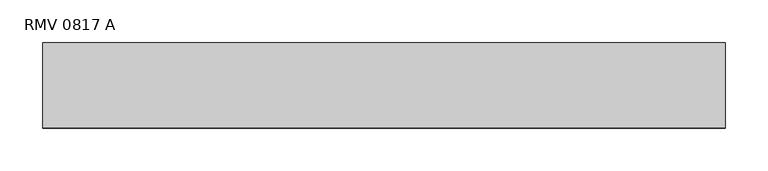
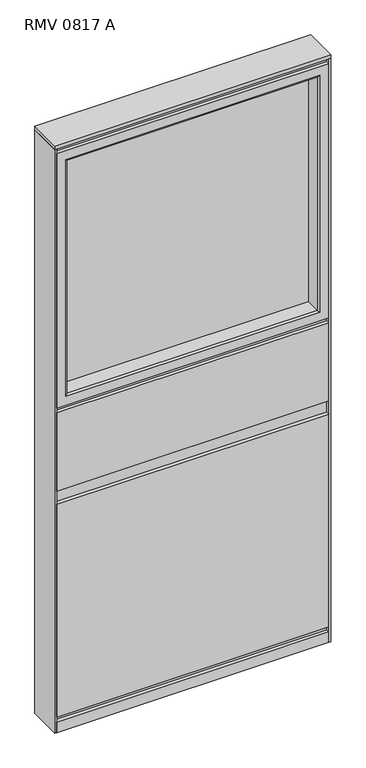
"""IFC4 building model written with IfcOpenShell, lengths in millimetres: furniture geometry, Mobiliário_MobiliáriodeEscritório_LinhaReasons_PainelMisto1800mm-Melamina_Marelli : RMV 0817 A."""

import ifcopenshell
import ifcopenshell.guid

model = None  # the IFC model being written
_history = None  # IfcOwnerHistory: only IFC2X3 demands one
_inside = {}  # id of a spatial element -> (the spatial element, [elements in it])
_under = {}  # id of a project, library or spatial element -> (it, [spatial elements below it])
_declared = {}  # id of a project -> (the project, [libraries it declares])
_typed = {}  # id of a type object -> (the type object, [elements of that type])
_made_of = {}  # id of a material, layer set ... -> (it, [elements and type objects made of it])


def new_model(schema):
    """Start an empty IFC model of exactly this schema.

    Asked for "IFC4X3", IfcOpenShell would pick the latest addendum, in which some entities
    have other attributes; the version numbers below select the first issue.
    IFC2X3 requires an IfcOwnerHistory on every rooted entity: one is made here for all.
    """
    global model, _history
    if schema == "IFC4X3":
        model = ifcopenshell.file(schema_version=(4, 3, 0, 0))
    else:
        model = ifcopenshell.file(schema=schema)
    _inside.clear()
    _under.clear()
    _declared.clear()
    _typed.clear()
    _made_of.clear()
    _history = None
    if model.schema == "IFC2X3":
        org = make("IfcOrganization", Name="unknown")
        user = make(
            "IfcPersonAndOrganization",
            ThePerson=make("IfcPerson", FamilyName="unknown"),
            TheOrganization=org,
        )
        app = make(
            "IfcApplication",
            ApplicationDeveloper=org,
            Version="unknown",
            ApplicationFullName="unknown",
            ApplicationIdentifier="unknown",
        )
        _history = make(
            "IfcOwnerHistory",
            OwningUser=user,
            OwningApplication=app,
            ChangeAction="ADDED",
            CreationDate=0,
        )
    return model


def make(cls, **values):
    """One entity of the class cls with the attributes given. An attribute that is None is left unset."""
    return model.create_entity(
        cls, **{name: value for name, value in values.items() if value is not None}
    )


def rooted(cls, **values):
    """An entity with a GlobalId (a new one), such as an element, a storey or a relation."""
    return make(cls, GlobalId=ifcopenshell.guid.new(), OwnerHistory=_history, **values)


def si_unit(unit_type, name, prefix=None):
    """IfcSIUnit, for example si_unit("LENGTHUNIT", "METRE", prefix="MILLI")."""
    return make("IfcSIUnit", UnitType=unit_type, Prefix=prefix, Name=name)


def assignment(units):
    """IfcUnitAssignment: the units of a project."""
    return None if units is None else make("IfcUnitAssignment", Units=units)


def point(xyz):
    """IfcCartesianPoint."""
    return None if xyz is None else make("IfcCartesianPoint", Coordinates=xyz)


def direction(xyz):
    """IfcDirection."""
    return None if xyz is None else make("IfcDirection", DirectionRatios=xyz)


def frame(location, z_axis=None, x_axis=None):
    """IfcAxis2Placement3D, a coordinate frame: its origin and axes. An axis left out is left unset."""
    return make(
        "IfcAxis2Placement3D",
        Location=point(location),
        Axis=direction(z_axis),
        RefDirection=direction(x_axis),
    )


def origin():
    """The frame at (0, 0, 0) with its axes left unset."""
    return frame((0.0, 0.0, 0.0))


def origin_with_axes():
    """The frame at (0, 0, 0) with the z axis (0, 0, 1) and the x axis (1, 0, 0) written out."""
    return frame((0.0, 0.0, 0.0), z_axis=(0.0, 0.0, 1.0), x_axis=(1.0, 0.0, 0.0))


def place(relative_to, where):
    """IfcLocalPlacement: puts the frame where relative to a parent placement (None: the world)."""
    return make(
        "IfcLocalPlacement", PlacementRelTo=relative_to, RelativePlacement=where
    )


def context(
    kind, dimensions, precision=None, world=None, true_north=None, identifier=None
):
    """IfcGeometricRepresentationContext, for example the 3D "Model" context."""
    return make(
        "IfcGeometricRepresentationContext",
        ContextIdentifier=identifier,
        ContextType=kind,
        CoordinateSpaceDimension=dimensions,
        Precision=precision,
        WorldCoordinateSystem=world,
        TrueNorth=true_north,
    )


def project(units=None, contexts=None):
    """IfcProject with its units and contexts."""
    return rooted(
        "IfcProject",
        Name="project",
        RepresentationContexts=contexts,
        UnitsInContext=assignment(units),
    )


def spatial(cls, under=None, at=None, **own):
    """A site, building, storey or space (cls), placed at a placement, below another one or the project."""
    s = rooted(cls, ObjectPlacement=at, **own)
    if under is not None:
        _under.setdefault(under.id(), (under, []))[1].append(s)
    return s


def polyline(points):
    """IfcPolyline through the points."""
    return make("IfcPolyline", Points=[point(p) for p in points])


def ellipse_curve(where, semi_axis1, semi_axis2):
    """IfcEllipse in the frame where."""
    return make(
        "IfcEllipse", Position=where, SemiAxis1=semi_axis1, SemiAxis2=semi_axis2
    )


def outline(outer, holes=None, kind="AREA"):
    """IfcArbitraryClosedProfileDef: a profile drawn as a closed curve; with holes, ...WithVoids."""
    if holes is None:
        return make("IfcArbitraryClosedProfileDef", ProfileType=kind, OuterCurve=outer)
    return make(
        "IfcArbitraryProfileDefWithVoids",
        ProfileType=kind,
        OuterCurve=outer,
        InnerCurves=holes,
    )


def extrude(swept, where, along, depth):
    """IfcExtrudedAreaSolid: the profile swept, set in the frame where, extruded along a direction by depth."""
    return make(
        "IfcExtrudedAreaSolid",
        SweptArea=swept,
        Position=where,
        ExtrudedDirection=direction(along),
        Depth=depth,
    )


def shape(context_of_items, identifier, shape_type, items):
    """IfcShapeRepresentation: the items that make up one representation, for example the "Body"."""
    return make(
        "IfcShapeRepresentation",
        ContextOfItems=context_of_items,
        RepresentationIdentifier=identifier,
        RepresentationType=shape_type,
        Items=items,
    )


def source(mapping_origin, context_of_items, identifier, shape_type, items):
    """IfcRepresentationMap: a shape defined once, which mapped items show again and again."""
    return make(
        "IfcRepresentationMap",
        MappingOrigin=mapping_origin,
        MappedRepresentation=shape(context_of_items, identifier, shape_type, items),
    )


def transform(
    local_origin,
    x_axis=None,
    y_axis=None,
    z_axis=None,
    scale=None,
    scale2=None,
    scale3=None,
    uniform=True,
):
    """IfcCartesianTransformationOperator3D, or its non-uniform kind. x_axis, y_axis, z_axis: its Axis1, 2, 3."""
    if uniform:
        return make(
            "IfcCartesianTransformationOperator3D",
            Axis1=direction(x_axis),
            Axis2=direction(y_axis),
            LocalOrigin=point(local_origin),
            Scale=scale,
            Axis3=direction(z_axis),
        )
    return make(
        "IfcCartesianTransformationOperator3DnonUniform",
        Axis1=direction(x_axis),
        Axis2=direction(y_axis),
        LocalOrigin=point(local_origin),
        Scale=scale,
        Axis3=direction(z_axis),
        Scale2=scale2,
        Scale3=scale3,
    )


def mapped(mapping_source, mapping_target):
    """IfcMappedItem: shows the shape of a source again, moved by a transform."""
    return make(
        "IfcMappedItem", MappingSource=mapping_source, MappingTarget=mapping_target
    )


def made_of(thing, what):
    """Note that an element or type object is made of a material, layer set ...; save() writes the relation."""
    if what is not None:
        _made_of.setdefault(what.id(), (what, []))[1].append(thing)
    return thing


def element(
    cls,
    number,
    at=None,
    inside=None,
    cuts=None,
    type_object=None,
    material=None,
    context=None,
    identifier="Body",
    shape_type=None,
    held_by="IfcProductDefinitionShape",
    body=None,
    shapes=None,
    **own,
):
    """One element of the class cls, such as IfcWall. Its Tag is "e" and its number.

    at: its placement. inside: the storey or other place that contains it. cuts: it is an
    opening in that element (IfcRelVoidsElement). A single representation is given by context,
    identifier, shape_type and body (its items); several are given by shapes. held_by: the class
    of the entity that holds the representations. save() writes the other relations.
    """
    e = rooted(cls, Tag="e%d" % number, ObjectPlacement=at, **own)
    if body is not None:
        shapes = [shape(context, identifier, shape_type, body)]
    if shapes is not None:
        e.Representation = make(held_by, Representations=shapes)
    if inside is not None:
        _inside.setdefault(inside.id(), (inside, []))[1].append(e)
    if cuts is not None:
        rooted(
            "IfcRelVoidsElement", RelatingBuildingElement=cuts, RelatedOpeningElement=e
        )
    if type_object is not None:
        _typed.setdefault(type_object.id(), (type_object, []))[1].append(e)
    return made_of(e, material)


def aggregate(whole, parts):
    """IfcRelAggregates: a whole, such as a stair, and the parts it consists of."""
    return rooted("IfcRelAggregates", RelatingObject=whole, RelatedObjects=parts)


def save(model, path):
    """Write the relations noted so far, then the file.

    IfcRelAggregates (storeys below a building ...), IfcRelContainedInSpatialStructure (elements
    in a storey), IfcRelDefinesByType, IfcRelAssociatesMaterial and IfcRelDeclares: one each for
    every whole, place, type object, material and project.
    """
    for whole, parts in _under.values():
        aggregate(whole, parts)
    for where, things in _inside.values():
        rooted(
            "IfcRelContainedInSpatialStructure",
            RelatedElements=things,
            RelatingStructure=where,
        )
    for kind, things in _typed.values():
        rooted("IfcRelDefinesByType", RelatedObjects=things, RelatingType=kind)
    for what, things in _made_of.values():
        rooted("IfcRelAssociatesMaterial", RelatedObjects=things, RelatingMaterial=what)
    for by, libraries in _declared.values():
        rooted("IfcRelDeclares", RelatingContext=by, RelatedDefinitions=libraries)
    model.write(path)


def plane_surface(at):
    """IfcPlane: the flat surface through the origin of the frame at, square to its z axis."""
    return make("IfcPlane", Position=at)


def cylinder_surface(at, radius):
    """IfcCylindricalSurface: all points at the distance radius from the z axis of the frame at."""
    return make("IfcCylindricalSurface", Position=at, Radius=radius)


def advanced_brep(points, edges, surfaces, faces):
    """IfcAdvancedBrep: a solid bounded by faces that lie on surfaces and meet in shared edges.

    An edge is (start, end): straight between two places in points (the first is 0);
    or (start, end, curve); or (start, end, curve, False) where it runs against its curve.
    A face is (place in surfaces, loops), or (place, loops, False) where it looks against
    its surface's normal. A loop lists edges by number (the first is 1), with a minus sign
    where the edge is run from its end to its start. The first loop is the outer one.
    """
    corners = [point(p) for p in points]
    vertices = [make("IfcVertexPoint", VertexGeometry=c) for c in corners]
    made = []
    for start, end, *more in edges:
        made.append(
            make(
                "IfcEdgeCurve",
                EdgeStart=vertices[start],
                EdgeEnd=vertices[end],
                EdgeGeometry=more[0] if more else make("IfcPolyline", Points=[corners[start], corners[end]]),
                SameSense=more[1] if len(more) > 1 else True,
            )
        )
    hull = []
    for where, loops, *sense in faces:
        bounds = []
        for j, loop in enumerate(loops):
            ring = [make("IfcOrientedEdge", EdgeElement=made[abs(k) - 1], Orientation=k > 0) for k in loop]
            bounds.append(
                make(
                    "IfcFaceOuterBound" if j == 0 else "IfcFaceBound",
                    Bound=make("IfcEdgeLoop", EdgeList=ring),
                    Orientation=True,
                )
            )
        hull.append(make("IfcAdvancedFace", Bounds=bounds, FaceSurface=surfaces[where], SameSense=sense[0] if sense else True))
    return make("IfcAdvancedBrep", Outer=make("IfcClosedShell", CfsFaces=hull))


def rmv_0817_a_99f153d6(model_context):
    return source(origin(), model_context, "Body", "SolidModel", [
        extrude(outline(polyline([(795.0, 100.0), (800.0, 100.0), (800.0, 0.0), (795.0, 0.0), (795.0, 100.0)])), origin_with_axes(), (0.0, 0.0, 1.0), 1789.0),
        extrude(outline(polyline([(800.0, 100.0), (800.0, 0.0), (0.0, 0.0), (0.0, 100.0), (800.0, 100.0)])), frame((0.0, 0.0, 1789.0), z_axis=(0.0, 0.0, 1.0), x_axis=(1.0, 0.0, 0.0)), (0.0, 0.0, 1.0), 11.0),
        extrude(outline(polyline([(5.0, 11.0), (5.0, 89.0), (795.0, 89.0), (795.0, 11.0), (5.0, 11.0)])), origin_with_axes(), (0.0, 0.0, 1.0), 995.0),
        extrude(outline(polyline([(795.0, 100.0), (795.0, 89.0), (5.0, 89.0), (5.0, 100.0), (795.0, 100.0)])), origin_with_axes(), (0.0, 0.0, 1.0), 32.0),
        extrude(outline(polyline([(795.0, 11.0), (795.0, 0.0), (5.0, 0.0), (5.0, 11.0), (795.0, 11.0)])), origin_with_axes(), (0.0, 0.0, 1.0), 32.0),
        extrude(outline(polyline([(795.0, 11.0), (795.0, 0.0), (5.0, 0.0), (5.0, 11.0), (795.0, 11.0)])), frame((0.0, 0.0, 47.0), z_axis=(0.0, 0.0, 1.0), x_axis=(1.0, 0.0, 0.0)), (0.0, 0.0, 1.0), 653.0),
        extrude(outline(polyline([(795.0, 11.0), (795.0, 0.0), (5.0, 0.0), (5.0, 11.0), (795.0, 11.0)])), frame((0.0, 0.0, 740.0), z_axis=(0.0, 0.0, 1.0), x_axis=(1.0, 0.0, 0.0)), (0.0, 0.0, 1.0), 240.0),
        extrude(outline(polyline([(795.0, 100.0), (795.0, 89.0), (5.0, 89.0), (5.0, 100.0), (795.0, 100.0)])), frame((0.0, 0.0, 47.0), z_axis=(0.0, 0.0, 1.0), x_axis=(1.0, 0.0, 0.0)), (0.0, 0.0, 1.0), 653.0),
        extrude(outline(polyline([(795.0, 100.0), (795.0, 89.0), (5.0, 89.0), (5.0, 100.0), (795.0, 100.0)])), frame((0.0, 0.0, 715.0), z_axis=(0.0, 0.0, 1.0), x_axis=(1.0, 0.0, 0.0)), (0.0, 0.0, 1.0), 265.0),
        extrude(outline(polyline([(0.0, 100.0), (5.0, 100.0), (5.0, 0.0), (0.0, 0.0), (0.0, 100.0)])), origin_with_axes(), (0.0, 0.0, 1.0), 1789.0),
        advanced_brep(
        [(763.5, 5.0, 1742.5), (763.5, 95.0, 1742.5), (763.5, 95.0, 1026.5), (763.5, 5.0, 1026.5), (795.0, 100.0, 1774.0), (795.0, 0.0, 1774.0), (795.0, 0.0, 995.0), (795.0, 100.0, 995.0), (36.5, 95.0, 1026.5), (36.5, 5.0, 1026.5), (5.0, 0.0, 995.0), (5.0, 100.0, 995.0), (36.5, 95.0, 1742.5), (36.5, 5.0, 1742.5), (5.0, 0.0, 1774.0), (5.0, 100.0, 1774.0), (768.5, 100.0, 1747.5), (31.5, 100.0, 1747.5), (31.5, 100.0, 1021.5), (768.5, 100.0, 1021.5), (768.5, 0.0, 1021.5), (31.5, 0.0, 1021.5), (31.5, 0.0, 1747.5), (768.5, 0.0, 1747.5)],
        [
            (0, 1),
            (1, 2),
            (2, 3),
            (3, 0),
            (4, 5),
            (5, 6),
            (6, 7),
            (7, 4),
            (2, 8),
            (8, 9),
            (9, 3),
            (6, 10),
            (10, 11),
            (11, 7),
            (8, 12),
            (12, 13),
            (13, 9),
            (10, 14),
            (14, 15),
            (15, 11),
            (15, 4),
            (16, 17),
            (17, 18),
            (18, 19),
            (19, 16),
            (12, 1),
            (0, 13),
            (5, 14),
            (20, 21),
            (21, 22),
            (22, 23),
            (23, 20),
            (1, 16, ellipse_curve(frame((768.5, 95.0, 1747.5), z_axis=(0.7071067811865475, 0.0, -0.7071067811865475), x_axis=(0.7071067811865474, 0.0, 0.7071067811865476)), 7.0710678, 5.0)),
            (19, 2, ellipse_curve(frame((768.5, 95.0, 1021.5), z_axis=(0.7071067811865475, 0.0, 0.7071067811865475), x_axis=(-0.7071067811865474, 0.0, 0.7071067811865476)), 7.0710678, 5.0)),
            (23, 0, ellipse_curve(frame((768.5, 5.0, 1747.5), z_axis=(0.7071067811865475, 0.0, -0.7071067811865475), x_axis=(0.7071067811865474, 0.0, 0.7071067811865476)), 7.0710678, 5.0)),
            (3, 20, ellipse_curve(frame((768.5, 5.0, 1021.5), z_axis=(0.7071067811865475, 0.0, 0.7071067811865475), x_axis=(-0.7071067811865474, 0.0, 0.7071067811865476)), 7.0710678, 5.0)),
            (18, 8, ellipse_curve(frame((31.5, 95.0, 1021.5), z_axis=(0.7071067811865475, 0.0, -0.7071067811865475), x_axis=(0.7071067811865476, 0.0, 0.7071067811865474)), 7.0710678, 5.0)),
            (9, 21, ellipse_curve(frame((31.5, 5.0, 1021.5), z_axis=(0.7071067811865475, 0.0, -0.7071067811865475), x_axis=(0.7071067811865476, 0.0, 0.7071067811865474)), 7.0710678, 5.0)),
            (17, 12, ellipse_curve(frame((31.5, 95.0, 1747.5), z_axis=(-0.7071067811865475, 0.0, -0.7071067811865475), x_axis=(0.7071067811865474, 0.0, -0.7071067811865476)), 7.0710678, 5.0)),
            (13, 22, ellipse_curve(frame((31.5, 5.0, 1747.5), z_axis=(-0.7071067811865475, 0.0, -0.7071067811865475), x_axis=(0.7071067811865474, 0.0, -0.7071067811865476)), 7.0710678, 5.0)),
        ],
        [
            plane_surface(frame((763.5, 95.0, 1742.5), z_axis=(-1.0, 0.0, 0.0), x_axis=(0.0, 0.0, -1.0))),
            plane_surface(frame((795.0, 0.0, 1774.0), z_axis=(1.0, 0.0, 0.0), x_axis=(0.0, 0.0, -1.0))),
            plane_surface(frame((763.5, 95.0, 1026.5), z_axis=(0.0, 0.0, 1.0), x_axis=(-1.0, 0.0, 0.0))),
            plane_surface(frame((795.0, 0.0, 995.0), z_axis=(0.0, 0.0, -1.0), x_axis=(-1.0, 0.0, 0.0))),
            plane_surface(frame((36.5, 95.0, 1026.5), z_axis=(1.0, 0.0, 0.0), x_axis=(0.0, 0.0, 1.0))),
            plane_surface(frame((5.0, 0.0, 995.0), z_axis=(-1.0, 0.0, 0.0), x_axis=(0.0, 0.0, 1.0))),
            plane_surface(frame((5.0, 100.0, 1774.0), z_axis=(0.0, 1.0, 0.0), x_axis=(1.0, 0.0, 0.0))),
            plane_surface(frame((36.5, 95.0, 1742.5), z_axis=(0.0, 0.0, -1.0), x_axis=(1.0, 0.0, 0.0))),
            plane_surface(frame((31.5, 0.0, 1747.5), z_axis=(0.0, -1.0, 0.0), x_axis=(1.0, 0.0, 0.0))),
            plane_surface(frame((5.0, 0.0, 1774.0), z_axis=(0.0, 0.0, 1.0), x_axis=(1.0, 0.0, 0.0))),
            cylinder_surface(frame((768.5, 95.0, 1774.0), z_axis=(0.0, 0.0, 1.0), x_axis=(1.0, 0.0, 0.0)), 5.0),
            cylinder_surface(frame((768.5, 5.0, 1774.0), z_axis=(0.0, 0.0, 1.0), x_axis=(1.0, 0.0, 0.0)), 5.0),
            cylinder_surface(frame((795.0, 95.0, 1021.5), z_axis=(1.0, 0.0, 0.0), x_axis=(0.0, 0.0, -1.0)), 5.0),
            cylinder_surface(frame((795.0, 5.0, 1021.5), z_axis=(1.0, 0.0, 0.0), x_axis=(0.0, 0.0, -1.0)), 5.0),
            cylinder_surface(frame((31.5, 95.0, 995.0), z_axis=(0.0, 0.0, -1.0), x_axis=(-1.0, 0.0, 0.0)), 5.0),
            cylinder_surface(frame((31.5, 5.0, 995.0), z_axis=(0.0, 0.0, -1.0), x_axis=(-1.0, 0.0, 0.0)), 5.0),
            cylinder_surface(frame((5.0, 95.0, 1747.5), z_axis=(-1.0, 0.0, 0.0), x_axis=(0.0, 0.0, 1.0)), 5.0),
            cylinder_surface(frame((5.0, 5.0, 1747.5), z_axis=(-1.0, 0.0, 0.0), x_axis=(0.0, 0.0, 1.0)), 5.0),
        ],
        [
            (0, [[1, 2, 3, 4]]),
            (1, [[5, 6, 7, 8]]),
            (2, [[-3, 9, 10, 11]]),
            (3, [[-7, 12, 13, 14]]),
            (4, [[-10, 15, 16, 17]]),
            (5, [[-13, 18, 19, 20]]),
            (6, [[-14, -20, 21, -8], [22, 23, 24, 25]]),
            (7, [[-16, 26, -1, 27]]),
            (8, [[28, -18, -12, -6], [29, 30, 31, 32]]),
            (9, [[-19, -28, -5, -21]]),
            (10, [[33, -25, 34, -2]]),
            (11, [[35, -4, 36, -32]]),
            (12, [[-34, -24, 37, -9]]),
            (13, [[-36, -11, 38, -29]]),
            (14, [[-37, -23, 39, -15]]),
            (15, [[-38, -17, 40, -30]]),
            (16, [[-39, -22, -33, -26]]),
            (17, [[-40, -27, -35, -31]]),
        ],
    ),
        extrude(outline(polyline([(5.0, 11.0), (5.0, 89.0), (795.0, 89.0), (795.0, 11.0), (5.0, 11.0)])), frame((0.0, 0.0, 1774.0), z_axis=(0.0, 0.0, 1.0), x_axis=(1.0, 0.0, 0.0)), (0.0, 0.0, 1.0), 15.0),
        extrude(outline(polyline([(763.5, 52.0), (763.5, 48.0), (36.5677845, 48.0), (36.5677845, 52.0), (763.5, 52.0)])), frame((0.0, 0.0, 1026.5), z_axis=(0.0, 0.0, 1.0), x_axis=(1.0, 0.0, 0.0)), (0.0, 0.0, 1.0), 716.0),
    ])


if __name__ == "__main__":
    model = new_model("IFC4")
    model_context = context("Model", 3, world=origin())
    ifc_project = project(units=[si_unit("LENGTHUNIT", "METRE", prefix="MILLI")], contexts=[model_context])
    site = spatial("IfcSite", under=ifc_project)
    building = spatial("IfcBuilding", under=site)
    placement = place(None, origin())
    rmv_0817_a_shape = rmv_0817_a_99f153d6(model_context)
    element("IfcFurniture", 1, ObjectType="Mobiliário_MobiliáriodeEscritório_LinhaReasons_PainelMisto1800mm-Melamina_Marelli : RMV 0817 A", at=placement, inside=building, context=model_context, shape_type="MappedRepresentation", body=[
        mapped(rmv_0817_a_shape, transform((0.0, 0.0, 0.0), x_axis=(1.0, 0.0, 0.0), y_axis=(0.0, 1.0, 0.0), z_axis=(0.0, 0.0, 1.0))),
    ])
    save(model, "model.ifc")
